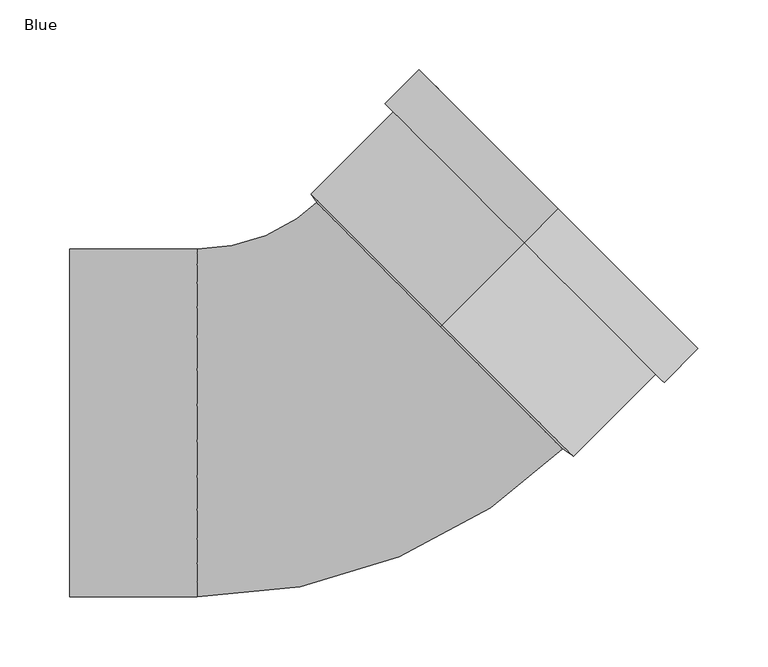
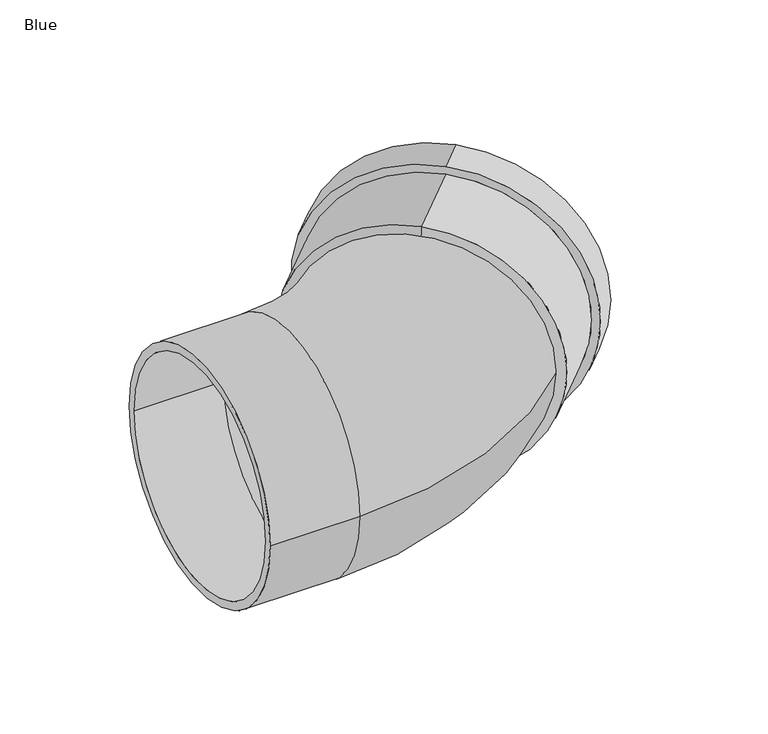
"""IFC4 building model written with IfcOpenShell, lengths in millimetres: pipe fitting geometry, AWADUKT PP SN10 Bend : Blue."""

from ifc_helpers import new_model, si_unit, point, frame, origin, place, context, project, spatial, polyline, circle_curve, ellipse_curve, trimmed, source, transform, mapped, element, save
from ifc_brep_helpers import plane_surface, cylinder_surface, revolved_surface, advanced_brep


def blue_e60a5e92(model_context):
    return source(origin(), model_context, "Body", "AdvancedBrep", [
        advanced_brep(
        [(129.7540943, 129.7540943, 133.6), (129.7540943, 129.7540943, -133.6), (70.5693665, 70.5693665, -133.6), (70.5693665, 70.5693665, 133.6), (154.0785676, 154.0785676, 142.2), (154.0785676, 154.0785676, -142.2), (129.7540943, 129.7540943, -142.2), (129.7540943, 129.7540943, 142.2), (147.9974493, 147.9974493, 125.0), (147.9974493, 147.9974493, -125.0), (154.0785676, 154.0785676, -125.0), (154.0785676, 154.0785676, 125.0), (135.8352127, 135.8352127, 133.6), (135.8352127, 135.8352127, -133.6), (147.9974493, 147.9974493, -133.6), (147.9974493, 147.9974493, 133.6), (75.6720306, 75.6720306, 125.0), (75.6720306, 75.6720306, -125.0), (135.8352127, 135.8352127, -125.0), (135.8352127, 135.8352127, 125.0), (74.5997654, 74.5997654, 116.4), (74.5997654, 74.5997654, -116.4), (68.424836, 68.424836, 116.4), (68.424836, 68.424836, -116.4)],
        [
            (0, 1, circle_curve(frame((129.7540943, 129.7540943, 0.0), z_axis=(-0.7071067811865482, -0.7071067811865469, 0.0), x_axis=(0.0, 0.0, -1.0)), 133.6)),
            (1, 2),
            (2, 3, circle_curve(frame((70.5693665, 70.5693665, 0.0), z_axis=(0.7071067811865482, 0.7071067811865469, 0.0), x_axis=(0.0, 0.0, -1.0)), 133.6)),
            (3, 0),
            (4, 5, circle_curve(frame((154.0785676, 154.0785676, 0.0), z_axis=(-0.7071067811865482, -0.7071067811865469, 0.0), x_axis=(0.0, 0.0, -1.0)), 142.2)),
            (5, 6),
            (6, 7, circle_curve(frame((129.7540943, 129.7540943, 0.0), z_axis=(0.7071067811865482, 0.7071067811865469, 0.0), x_axis=(0.0, 0.0, -1.0)), 142.2)),
            (7, 4),
            (8, 9, circle_curve(frame((147.9974493, 147.9974493, 0.0), z_axis=(-0.7071067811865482, -0.7071067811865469, 0.0), x_axis=(0.0, 0.0, -1.0)), 125.0)),
            (9, 10),
            (10, 11, circle_curve(frame((154.0785676, 154.0785676, 0.0), z_axis=(0.7071067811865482, 0.7071067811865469, 0.0), x_axis=(0.0, 0.0, -1.0)), 125.0)),
            (11, 8),
            (12, 13, circle_curve(frame((135.8352127, 135.8352127, 0.0), z_axis=(-0.7071067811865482, -0.7071067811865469, 0.0), x_axis=(0.0, 0.0, -1.0)), 133.6)),
            (13, 14),
            (14, 15, circle_curve(frame((147.9974493, 147.9974493, 0.0), z_axis=(0.7071067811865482, 0.7071067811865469, 0.0), x_axis=(0.0, 0.0, -1.0)), 133.6)),
            (15, 12),
            (16, 17, circle_curve(frame((75.6720306, 75.6720306, 0.0), z_axis=(-0.7071067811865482, -0.7071067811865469, 0.0), x_axis=(0.0, 0.0, -1.0)), 125.0)),
            (17, 18),
            (18, 19, circle_curve(frame((135.8352127, 135.8352127, 0.0), z_axis=(0.7071067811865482, 0.7071067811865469, 0.0), x_axis=(0.0, 0.0, -1.0)), 125.0)),
            (19, 16),
            (20, 21, circle_curve(frame((74.5997654, 74.5997654, 0.0), z_axis=(-0.7071067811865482, -0.7071067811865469, 0.0), x_axis=(0.0, 0.0, -1.0)), 116.4)),
            (21, 17),
            (16, 20),
            (22, 23, circle_curve(frame((68.424836, 68.424836, 0.0), z_axis=(-0.7071067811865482, -0.7071067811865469, 0.0), x_axis=(0.0, 0.0, -1.0)), 116.4)),
            (23, 21),
            (20, 22),
            (2, 23),
            (22, 3),
            (1, 0, circle_curve(frame((129.7540943, 129.7540943, 0.0), z_axis=(-0.7071067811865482, -0.7071067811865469, 0.0), x_axis=(0.0, 0.0, 1.0)), 133.6)),
            (3, 2, circle_curve(frame((70.5693665, 70.5693665, 0.0), z_axis=(0.7071067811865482, 0.7071067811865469, 0.0), x_axis=(0.0, 0.0, 1.0)), 133.6)),
            (6, 7, circle_curve(frame((129.7540943, 129.7540943, 0.0), z_axis=(-0.7071067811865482, -0.7071067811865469, 0.0), x_axis=(0.0, 0.0, 1.0)), 142.2)),
            (5, 4, circle_curve(frame((154.0785676, 154.0785676, 0.0), z_axis=(-0.7071067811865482, -0.7071067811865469, 0.0), x_axis=(0.0, 0.0, 1.0)), 142.2)),
            (10, 11, circle_curve(frame((154.0785676, 154.0785676, 0.0), z_axis=(-0.7071067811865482, -0.7071067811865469, 0.0), x_axis=(0.0, 0.0, 1.0)), 125.0)),
            (9, 8, circle_curve(frame((147.9974493, 147.9974493, 0.0), z_axis=(-0.7071067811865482, -0.7071067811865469, 0.0), x_axis=(0.0, 0.0, 1.0)), 125.0)),
            (14, 15, circle_curve(frame((147.9974493, 147.9974493, 0.0), z_axis=(-0.7071067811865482, -0.7071067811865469, 0.0), x_axis=(0.0, 0.0, 1.0)), 133.6)),
            (13, 12, circle_curve(frame((135.8352127, 135.8352127, 0.0), z_axis=(-0.7071067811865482, -0.7071067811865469, 0.0), x_axis=(0.0, 0.0, 1.0)), 133.6)),
            (18, 19, circle_curve(frame((135.8352127, 135.8352127, 0.0), z_axis=(-0.7071067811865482, -0.7071067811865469, 0.0), x_axis=(0.0, 0.0, 1.0)), 125.0)),
            (17, 16, circle_curve(frame((75.6720306, 75.6720306, 0.0), z_axis=(-0.7071067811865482, -0.7071067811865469, 0.0), x_axis=(0.0, 0.0, 1.0)), 125.0)),
            (21, 20, circle_curve(frame((74.5997654, 74.5997654, 0.0), z_axis=(-0.7071067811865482, -0.7071067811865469, 0.0), x_axis=(0.0, 0.0, 1.0)), 116.4)),
            (23, 22, circle_curve(frame((68.424836, 68.424836, 0.0), z_axis=(-0.7071067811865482, -0.7071067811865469, 0.0), x_axis=(0.0, 0.0, 1.0)), 116.4)),
        ],
        [
            cylinder_surface(frame((74.5997654, 74.5997654, 0.0), z_axis=(0.7071067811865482, 0.7071067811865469, 0.0), x_axis=(0.0, 0.0, -1.0)), 133.6),
            cylinder_surface(frame((74.5997654, 74.5997654, 0.0), z_axis=(0.7071067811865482, 0.7071067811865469, 0.0), x_axis=(0.0, 0.0, -1.0)), 142.2),
            revolved_surface(polyline([(154.0785676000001, 154.07856759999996, -125.0), (147.99744930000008, 147.99744929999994, -125.0)]), (74.5997654, 74.5997654, 0.0), (0.7071067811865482, 0.7071067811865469, 0.0)),
            revolved_surface(polyline([(147.99744930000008, 147.99744929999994, -133.6), (135.83521270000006, 135.83521269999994, -133.6)]), (74.5997654, 74.5997654, 0.0), (0.7071067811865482, 0.7071067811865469, 0.0)),
            revolved_surface(polyline([(135.83521270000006, 135.83521269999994, -125.0), (75.6720306, 75.6720306, -125.0)]), (74.5997654, 74.5997654, 0.0), (0.7071067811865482, 0.7071067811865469, 0.0)),
            revolved_surface(polyline([(75.6720306, 75.6720306, -125.0), (74.5997654, 74.5997654, -116.4)]), (74.5997654, 74.5997654, 0.0), (0.7071067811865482, 0.7071067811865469, 0.0)),
            revolved_surface(polyline([(74.5997654, 74.5997654, -116.4), (68.424836, 68.424836, -116.4)]), (74.5997654, 74.5997654, 0.0), (0.7071067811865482, 0.7071067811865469, 0.0)),
            revolved_surface(polyline([(68.424836, 68.424836, -116.4), (70.5693665, 70.5693665, -133.6)]), (74.5997654, 74.5997654, 0.0), (0.7071067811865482, 0.7071067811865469, 0.0)),
            cylinder_surface(frame((74.5997654, 74.5997654, 0.0), z_axis=(0.7071067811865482, 0.7071067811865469, 0.0), x_axis=(0.0, 0.0, 1.0)), 133.6),
            plane_surface(frame((129.7540943, 129.7540943, 0.0), z_axis=(-0.7071067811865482, -0.7071067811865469, 0.0), x_axis=(0.0, 0.0, 1.0))),
            cylinder_surface(frame((74.5997654, 74.5997654, 0.0), z_axis=(0.7071067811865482, 0.7071067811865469, 0.0), x_axis=(0.0, 0.0, 1.0)), 142.2),
            plane_surface(frame((154.0785676, 154.0785676, 0.0), z_axis=(0.7071067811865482, 0.7071067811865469, 0.0), x_axis=(0.0, 0.0, 1.0))),
            revolved_surface(polyline([(154.0785676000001, 154.07856759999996, 125.0), (147.99744930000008, 147.99744929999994, 125.0)]), (74.5997654, 74.5997654, 0.0), (0.7071067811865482, 0.7071067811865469, 0.0)),
            plane_surface(frame((147.9974493, 147.9974493, 0.0), z_axis=(-0.7071067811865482, -0.7071067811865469, 0.0), x_axis=(0.0, 0.0, 1.0))),
            revolved_surface(polyline([(147.99744930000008, 147.99744929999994, 133.6), (135.83521270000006, 135.83521269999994, 133.6)]), (74.5997654, 74.5997654, 0.0), (0.7071067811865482, 0.7071067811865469, 0.0)),
            plane_surface(frame((135.8352127, 135.8352127, 0.0), z_axis=(0.7071067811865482, 0.7071067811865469, 0.0), x_axis=(0.0, 0.0, 1.0))),
            revolved_surface(polyline([(135.83521270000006, 135.83521269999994, 125.0), (75.6720306, 75.6720306, 125.0)]), (74.5997654, 74.5997654, 0.0), (0.7071067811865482, 0.7071067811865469, 0.0)),
            revolved_surface(polyline([(75.6720306, 75.6720306, 125.0), (74.5997654, 74.5997654, 116.4)]), (74.5997654, 74.5997654, 0.0), (0.7071067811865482, 0.7071067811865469, 0.0)),
            revolved_surface(polyline([(74.5997654, 74.5997654, 116.4), (68.424836, 68.424836, 116.4)]), (74.5997654, 74.5997654, 0.0), (0.7071067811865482, 0.7071067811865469, 0.0)),
            revolved_surface(polyline([(68.424836, 68.424836, 116.4), (70.5693665, 70.5693665, 133.6)]), (74.5997654, 74.5997654, 0.0), (0.7071067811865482, 0.7071067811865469, 0.0)),
        ],
        [
            (0, [[1, 2, 3, 4]]),
            (1, [[5, 6, 7, 8]]),
            (2, [[9, 10, 11, 12]]),
            (3, [[13, 14, 15, 16]]),
            (4, [[17, 18, 19, 20]]),
            (5, [[21, 22, -17, 23]]),
            (6, [[24, 25, -21, 26]]),
            (7, [[-3, 27, -24, 28]]),
            (8, [[29, -4, 30, -2]]),
            (9, [[31, -7], [-29, -1]]),
            (10, [[32, -8, -31, -6]]),
            (11, [[-32, -5], [33, -11]]),
            (12, [[34, -12, -33, -10]]),
            (13, [[35, -15], [-34, -9]]),
            (14, [[36, -16, -35, -14]]),
            (15, [[-36, -13], [37, -19]]),
            (16, [[38, -20, -37, -18]]),
            (17, [[39, -23, -38, -22]]),
            (18, [[40, -26, -39, -25]]),
            (19, [[-30, -28, -40, -27]]),
        ],
    ),
        advanced_brep(
        [(-197.0, -125.0, 0.0), (-197.0, 125.0, 0.0), (-197.0, -116.4, 0.0), (-197.0, 116.4, 0.0), (162.9881131, -13.7885822, 0.0), (-13.7885822, 162.9881131, 0.0), (156.9069947, -7.7074639, 0.0), (-7.7074639, 156.9069947, 0.0), (-105.5, -116.4, 0.0), (-105.5, 116.4, 0.0), (-105.5, -125.0, 0.0), (-105.5, 125.0, 0.0)],
        [
            (0, 1, circle_curve(frame((-197.0, 0.0, 0.0), z_axis=(-1.0, 0.0, 0.0), x_axis=(0.0, 1.0, 0.0)), 125.0)),
            (1, 0, circle_curve(frame((-197.0, 0.0, 0.0), z_axis=(-1.0, 0.0, 0.0), x_axis=(0.0, 1.0, 0.0)), 125.0)),
            (2, 3, circle_curve(frame((-197.0, 0.0, 0.0), z_axis=(1.0, 0.0, 0.0), x_axis=(0.0, 1.0, 0.0)), 116.4)),
            (3, 2, circle_curve(frame((-197.0, 0.0, 0.0), z_axis=(1.0, 0.0, 0.0), x_axis=(0.0, 1.0, 0.0)), 116.4)),
            (4, 5, circle_curve(frame((74.5997654, 74.5997654, 0.0), z_axis=(0.7071067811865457, 0.7071067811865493, 0.0), x_axis=(-0.7071067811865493, 0.7071067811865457, 0.0)), 125.0)),
            (5, 4, circle_curve(frame((74.5997654, 74.5997654, 0.0), z_axis=(0.7071067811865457, 0.7071067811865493, 0.0), x_axis=(-0.7071067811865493, 0.7071067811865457, 0.0)), 125.0)),
            (6, 7, circle_curve(frame((74.5997654, 74.5997654, 0.0), z_axis=(-0.7071067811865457, -0.7071067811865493, 0.0), x_axis=(-0.7071067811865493, 0.7071067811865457, 0.0)), 116.4)),
            (7, 6, circle_curve(frame((74.5997654, 74.5997654, 0.0), z_axis=(-0.7071067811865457, -0.7071067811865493, 0.0), x_axis=(-0.7071067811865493, 0.7071067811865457, 0.0)), 116.4)),
            (2, 8),
            (8, 9, circle_curve(frame((-105.5, 0.0, 0.0), z_axis=(1.0, 0.0, 0.0), x_axis=(0.0, 1.0, 0.0)), 116.4)),
            (9, 3),
            (9, 8, circle_curve(frame((-105.5, 0.0, 0.0), z_axis=(1.0, 0.0, 0.0), x_axis=(0.0, 1.0, 0.0)), 116.4)),
            (0, 10),
            (10, 11, circle_curve(frame((-105.5, 0.0, 0.0), z_axis=(-1.0, 0.0, 0.0), x_axis=(0.0, 1.0, 0.0)), 125.0)),
            (11, 1),
            (11, 10, circle_curve(frame((-105.5, 0.0, 0.0), z_axis=(-1.0, 0.0, 0.0), x_axis=(0.0, 1.0, 0.0)), 125.0)),
            (7, 9, circle_curve(frame((-105.5, 254.6995308, 0.0), z_axis=(0.0, 0.0, -1.0), x_axis=(0.0, -1.0, 0.0)), 138.2995308)),
            (8, 6, circle_curve(frame((-105.5, 254.6995308, 0.0), z_axis=(0.0, 0.0, 1.0), x_axis=(0.0, -1.0, 0.0)), 371.0995308)),
            (5, 11, circle_curve(frame((-105.5, 254.6995308, 0.0), z_axis=(0.0, 0.0, -1.0), x_axis=(0.0, -1.0, 0.0)), 129.6995308)),
            (10, 4, circle_curve(frame((-105.5, 254.6995308, 0.0), z_axis=(0.0, 0.0, 1.0), x_axis=(0.0, -1.0, 0.0)), 379.6995308)),
        ],
        [
            plane_surface(frame((-197.0, 0.0, 0.0), z_axis=(-1.0, 0.0, 0.0), x_axis=(0.0, 0.0, 1.0))),
            plane_surface(frame((74.5997654, 74.5997654, 0.0), z_axis=(0.7071067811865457, 0.7071067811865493, 0.0), x_axis=(0.0, 0.0, 1.0))),
            revolved_surface(polyline([(-105.5, 116.4, 0.0), (-197.0, 116.4, 0.0)]), (-197.0, 0.0, 0.0), (1.0, 0.0, 0.0)),
            cylinder_surface(frame((-197.0, 0.0, 0.0), z_axis=(-1.0, 0.0, 0.0), x_axis=(0.0, 1.0, 0.0)), 125.0),
            revolved_surface(trimmed(ellipse_curve(frame((-105.5, 0.0, 0.0), z_axis=(1.0, 0.0, 0.0), x_axis=(0.0, 1.0, 0.0)), 116.4, 116.4), [point((-105.5, -116.4, 0.0))], [point((-105.5, 116.4, 0.0))], True, "CARTESIAN"), (-105.5, 254.6995308, 0.0), (0.0, 0.0, 1.0)),
            revolved_surface(trimmed(ellipse_curve(frame((-105.5, 0.0, 0.0), z_axis=(1.0, 0.0, 0.0), x_axis=(0.0, 1.0, 0.0)), 116.4, 116.4), [point((-105.5, 116.4, 0.0))], [point((-105.5, -116.4, 0.0))], True, "CARTESIAN"), (-105.5, 254.6995308, 0.0), (0.0, 0.0, 1.0)),
            revolved_surface(trimmed(ellipse_curve(frame((-105.5, 0.0, 0.0), z_axis=(-1.0, 0.0, 0.0), x_axis=(0.0, 1.0, 0.0)), 125.0, 125.0), [point((-105.5, -125.0, 0.0))], [point((-105.5, 125.0, 0.0))], True, "CARTESIAN"), (-105.5, 254.6995308, 0.0), (0.0, 0.0, 1.0)),
            revolved_surface(trimmed(ellipse_curve(frame((-105.5, 0.0, 0.0), z_axis=(-1.0, 0.0, 0.0), x_axis=(0.0, 1.0, 0.0)), 125.0, 125.0), [point((-105.5, 125.0, 0.0))], [point((-105.5, -125.0, 0.0))], True, "CARTESIAN"), (-105.5, 254.6995308, 0.0), (0.0, 0.0, 1.0)),
        ],
        [
            (0, [[1, 2], [3, 4]]),
            (1, [[5, 6], [7, 8]]),
            (2, [[-3, 9, 10, 11]]),
            (2, [[-4, -11, 12, -9]]),
            (3, [[-1, 13, 14, 15]]),
            (3, [[-2, -15, 16, -13]]),
            (4, [[17, -10, 18, -8]]),
            (5, [[-18, -12, -17, -7]]),
            (6, [[19, -14, 20, -6]]),
            (7, [[-20, -16, -19, -5]]),
        ],
    ),
    ])


if __name__ == "__main__":
    model = new_model("IFC4")
    model_context = context("Model", 3, world=origin())
    ifc_project = project(units=[si_unit("LENGTHUNIT", "METRE", prefix="MILLI")], contexts=[model_context])
    site = spatial("IfcSite", under=ifc_project)
    building = spatial("IfcBuilding", under=site)
    placement = place(None, origin())
    blue_shape = blue_e60a5e92(model_context)
    element("IfcPipeFitting", 1, ObjectType="AWADUKT PP SN10 Bend : Blue", at=placement, inside=building, context=model_context, shape_type="MappedRepresentation", body=[
        mapped(blue_shape, transform((0.0, 0.0, 0.0), x_axis=(1.0, 0.0, 0.0), y_axis=(0.0, 1.0, 0.0), z_axis=(0.0, 0.0, 1.0))),
    ])
    save(model, "model.ifc")
